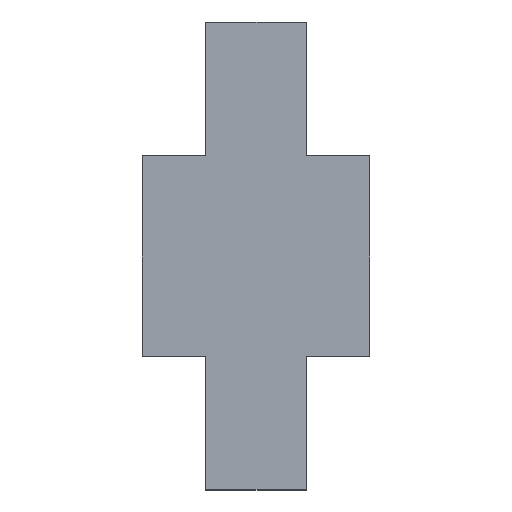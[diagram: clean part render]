
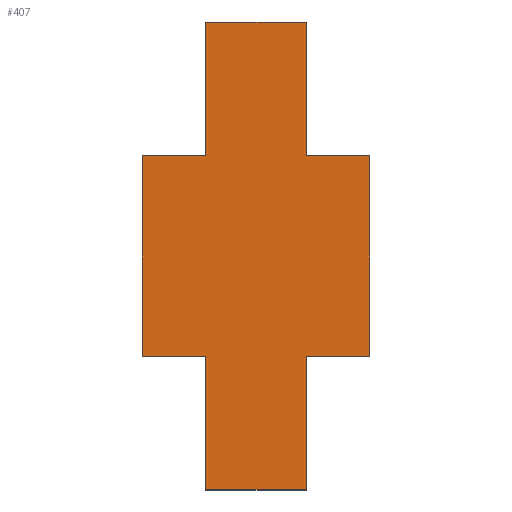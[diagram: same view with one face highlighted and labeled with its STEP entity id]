
A CAD part, top view. The second image highlights one B-rep face of the part: STEP entity #407.
In plain terms, the highlighted planar face has unit normal (0, 0, 1).
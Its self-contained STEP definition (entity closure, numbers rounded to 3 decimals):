
#5 = LINE ( 'NONE', #311, #91 ) ;
#8 = CARTESIAN_POINT ( 'NONE',  ( 17., -15., 0.13 ) ) ;
#11 = DIRECTION ( 'NONE',  ( 0., 1., 0. ) ) ;
#16 = ORIENTED_EDGE ( 'NONE', *, *, #224, .F. ) ;
#17 = LINE ( 'NONE', #430, #443 ) ;
#25 = VECTOR ( 'NONE', #46, 1000. ) ;
#27 = CARTESIAN_POINT ( 'NONE',  ( 17., -15., 0.13 ) ) ;
#33 = LINE ( 'NONE', #190, #134 ) ;
#36 = VERTEX_POINT ( 'NONE', #362 ) ;
#41 = DIRECTION ( 'NONE',  ( 0., 1., 0. ) ) ;
#46 = DIRECTION ( 'NONE',  ( 0., -1., 0. ) ) ;
#56 = LINE ( 'NONE', #202, #112 ) ;
#66 = FACE_OUTER_BOUND ( 'NONE', #501, .T. ) ;
#69 = CARTESIAN_POINT ( 'NONE',  ( 7.5, -35., 0.13 ) ) ;
#91 = VECTOR ( 'NONE', #398, 1000. ) ;
#93 = CARTESIAN_POINT ( 'NONE',  ( -17., -15., 0.13 ) ) ;
#104 = VECTOR ( 'NONE', #393, 1000. ) ;
#107 = CARTESIAN_POINT ( 'NONE',  ( -17., -15., 0.13 ) ) ;
#112 = VECTOR ( 'NONE', #11, 1000. ) ;
#119 = DIRECTION ( 'NONE',  ( -1., 0., 0. ) ) ;
#120 = ORIENTED_EDGE ( 'NONE', *, *, #299, .T. ) ;
#123 = ORIENTED_EDGE ( 'NONE', *, *, #146, .F. ) ;
#131 = CARTESIAN_POINT ( 'NONE',  ( 7.5, 35., 0.13 ) ) ;
#133 = LINE ( 'NONE', #284, #427 ) ;
#134 = VECTOR ( 'NONE', #119, 1000. ) ;
#141 = CARTESIAN_POINT ( 'NONE',  ( -17., 15., 0.13 ) ) ;
#146 = EDGE_CURVE ( 'NONE', #272, #467, #495, .T. ) ;
#156 = CARTESIAN_POINT ( 'NONE',  ( -7.5, -35., 0.13 ) ) ;
#160 = VERTEX_POINT ( 'NONE', #456 ) ;
#162 = CARTESIAN_POINT ( 'NONE',  ( 17., 15., 0.13 ) ) ;
#163 = ORIENTED_EDGE ( 'NONE', *, *, #465, .F. ) ;
#165 = CARTESIAN_POINT ( 'NONE',  ( -7.5, 15., 0.13 ) ) ;
#171 = CARTESIAN_POINT ( 'NONE',  ( 7.5, 15., 0.13 ) ) ;
#185 = CARTESIAN_POINT ( 'NONE',  ( 0., 0., 0.13 ) ) ;
#187 = EDGE_CURVE ( 'NONE', #283, #160, #33, .T. ) ;
#190 = CARTESIAN_POINT ( 'NONE',  ( -38., 35., 0.13 ) ) ;
#193 = EDGE_CURVE ( 'NONE', #354, #497, #426, .T. ) ;
#202 = CARTESIAN_POINT ( 'NONE',  ( -7.5, 35., 0.13 ) ) ;
#205 = DIRECTION ( 'NONE',  ( 0., -1., 0. ) ) ;
#212 = CARTESIAN_POINT ( 'NONE',  ( 7.5, -15., 0.13 ) ) ;
#214 = ORIENTED_EDGE ( 'NONE', *, *, #260, .F. ) ;
#218 = VECTOR ( 'NONE', #413, 1000. ) ;
#224 = EDGE_CURVE ( 'NONE', #478, #36, #452, .T. ) ;
#225 = DIRECTION ( 'NONE',  ( 1., 0., 0. ) ) ;
#230 = ORIENTED_EDGE ( 'NONE', *, *, #258, .F. ) ;
#240 = ORIENTED_EDGE ( 'NONE', *, *, #268, .F. ) ;
#258 = EDGE_CURVE ( 'NONE', #352, #289, #133, .T. ) ;
#260 = EDGE_CURVE ( 'NONE', #312, #352, #5, .T. ) ;
#262 = PLANE ( 'NONE',  #314 ) ;
#268 = EDGE_CURVE ( 'NONE', #283, #312, #17, .T. ) ;
#272 = VERTEX_POINT ( 'NONE', #402 ) ;
#278 = ORIENTED_EDGE ( 'NONE', *, *, #366, .F. ) ;
#283 = VERTEX_POINT ( 'NONE', #131 ) ;
#284 = CARTESIAN_POINT ( 'NONE',  ( 17., -15., 0.13 ) ) ;
#289 = VERTEX_POINT ( 'NONE', #8 ) ;
#292 = LINE ( 'NONE', #27, #370 ) ;
#297 = CARTESIAN_POINT ( 'NONE',  ( -17., -15., 0.13 ) ) ;
#299 = EDGE_CURVE ( 'NONE', #272, #497, #364, .T. ) ;
#303 = VERTEX_POINT ( 'NONE', #165 ) ;
#311 = CARTESIAN_POINT ( 'NONE',  ( 17., 15., 0.13 ) ) ;
#312 = VERTEX_POINT ( 'NONE', #171 ) ;
#314 = AXIS2_PLACEMENT_3D ( 'NONE', #185, #410, #451 ) ;
#320 = CARTESIAN_POINT ( 'NONE',  ( -38., -35., 0.13 ) ) ;
#329 = ORIENTED_EDGE ( 'NONE', *, *, #187, .T. ) ;
#339 = EDGE_CURVE ( 'NONE', #303, #160, #56, .T. ) ;
#341 = CARTESIAN_POINT ( 'NONE',  ( -7.5, -15., 0.13 ) ) ;
#349 = ORIENTED_EDGE ( 'NONE', *, *, #431, .F. ) ;
#352 = VERTEX_POINT ( 'NONE', #162 ) ;
#354 = VERTEX_POINT ( 'NONE', #212 ) ;
#357 = VECTOR ( 'NONE', #464, 1000. ) ;
#361 = LINE ( 'NONE', #93, #357 ) ;
#362 = CARTESIAN_POINT ( 'NONE',  ( -17., 15., 0.13 ) ) ;
#364 = LINE ( 'NONE', #320, #104 ) ;
#366 = EDGE_CURVE ( 'NONE', #467, #478, #361, .T. ) ;
#370 = VECTOR ( 'NONE', #489, 1000. ) ;
#387 = CARTESIAN_POINT ( 'NONE',  ( 7.5, -35., 0.13 ) ) ;
#393 = DIRECTION ( 'NONE',  ( 1., 0., 0. ) ) ;
#398 = DIRECTION ( 'NONE',  ( 1., 0., 0. ) ) ;
#402 = CARTESIAN_POINT ( 'NONE',  ( -7.5, -35., 0.13 ) ) ;
#407 = ADVANCED_FACE ( 'NONE', ( #66 ), #262, .T. ) ;
#410 = DIRECTION ( 'NONE',  ( 0., 0., 1. ) ) ;
#413 = DIRECTION ( 'NONE',  ( 0., 1., 0. ) ) ;
#414 = LINE ( 'NONE', #141, #490 ) ;
#426 = LINE ( 'NONE', #387, #25 ) ;
#427 = VECTOR ( 'NONE', #205, 1000. ) ;
#430 = CARTESIAN_POINT ( 'NONE',  ( 7.5, 35., 0.13 ) ) ;
#431 = EDGE_CURVE ( 'NONE', #289, #354, #292, .T. ) ;
#435 = ORIENTED_EDGE ( 'NONE', *, *, #339, .F. ) ;
#436 = DIRECTION ( 'NONE',  ( 0., -1., 0. ) ) ;
#443 = VECTOR ( 'NONE', #436, 1000. ) ;
#451 = DIRECTION ( 'NONE',  ( 1., 0., 0. ) ) ;
#452 = LINE ( 'NONE', #107, #218 ) ;
#456 = CARTESIAN_POINT ( 'NONE',  ( -7.5, 35., 0.13 ) ) ;
#464 = DIRECTION ( 'NONE',  ( -1., 0., 0. ) ) ;
#465 = EDGE_CURVE ( 'NONE', #36, #303, #414, .T. ) ;
#467 = VERTEX_POINT ( 'NONE', #341 ) ;
#472 = ORIENTED_EDGE ( 'NONE', *, *, #193, .F. ) ;
#478 = VERTEX_POINT ( 'NONE', #297 ) ;
#489 = DIRECTION ( 'NONE',  ( -1., 0., 0. ) ) ;
#490 = VECTOR ( 'NONE', #225, 1000. ) ;
#495 = LINE ( 'NONE', #156, #500 ) ;
#497 = VERTEX_POINT ( 'NONE', #69 ) ;
#500 = VECTOR ( 'NONE', #41, 1000. ) ;
#501 = EDGE_LOOP ( 'NONE', ( #435, #163, #16, #278, #123, #120, #472, #349, #230, #214, #240, #329 ) ) ;
